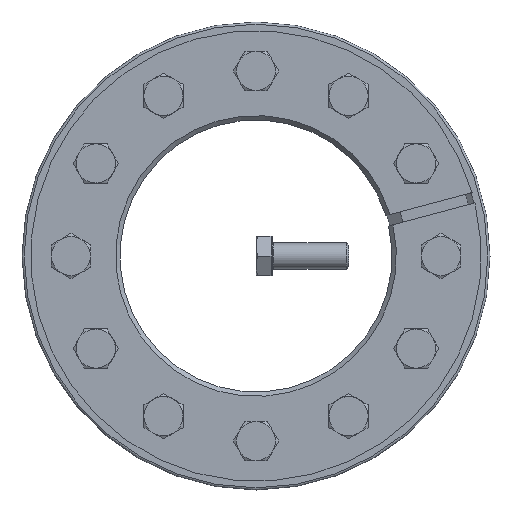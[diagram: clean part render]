
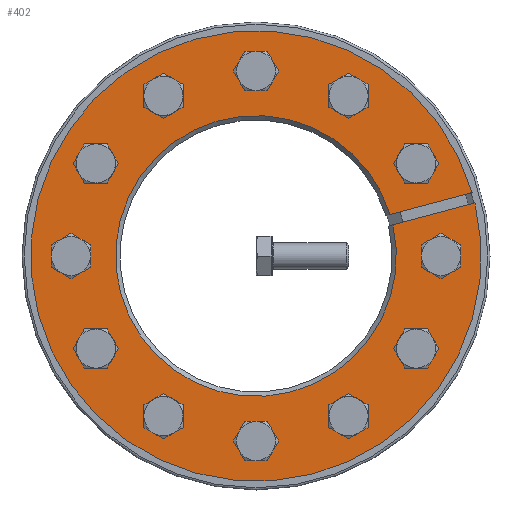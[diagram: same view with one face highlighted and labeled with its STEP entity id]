
A CAD part, front view. The second image highlights one B-rep face of the part: STEP entity #402.
In plain terms, the highlighted planar face has unit normal (0, -1, 0).
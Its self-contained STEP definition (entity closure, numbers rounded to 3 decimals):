
#402 = ADVANCED_FACE( '', ( #654, #655, #656, #657, #658, #659, #660, #661, #662, #663, #664, #665, #666 ), #667, .F. );
#654 = FACE_BOUND( '', #820, .T. );
#655 = FACE_BOUND( '', #821, .T. );
#656 = FACE_BOUND( '', #822, .T. );
#657 = FACE_BOUND( '', #823, .T. );
#658 = FACE_BOUND( '', #824, .T. );
#659 = FACE_BOUND( '', #825, .T. );
#660 = FACE_OUTER_BOUND( '', #826, .T. );
#661 = FACE_BOUND( '', #827, .T. );
#662 = FACE_BOUND( '', #828, .T. );
#663 = FACE_BOUND( '', #829, .T. );
#664 = FACE_BOUND( '', #830, .T. );
#665 = FACE_BOUND( '', #831, .T. );
#666 = FACE_BOUND( '', #832, .T. );
#667 = PLANE( '', #833 );
#820 = EDGE_LOOP( '', ( #1093 ) );
#821 = EDGE_LOOP( '', ( #1094 ) );
#822 = EDGE_LOOP( '', ( #1095 ) );
#823 = EDGE_LOOP( '', ( #1096 ) );
#824 = EDGE_LOOP( '', ( #1097 ) );
#825 = EDGE_LOOP( '', ( #1098 ) );
#826 = EDGE_LOOP( '', ( #1099, #1100, #1101, #1102 ) );
#827 = EDGE_LOOP( '', ( #1103 ) );
#828 = EDGE_LOOP( '', ( #1104 ) );
#829 = EDGE_LOOP( '', ( #1105 ) );
#830 = EDGE_LOOP( '', ( #1106 ) );
#831 = EDGE_LOOP( '', ( #1107 ) );
#832 = EDGE_LOOP( '', ( #1108 ) );
#833 = AXIS2_PLACEMENT_3D( '', #1109, #1110, #1111 );
#1093 = ORIENTED_EDGE( '', *, *, #1400, .T. );
#1094 = ORIENTED_EDGE( '', *, *, #1401, .T. );
#1095 = ORIENTED_EDGE( '', *, *, #1402, .T. );
#1096 = ORIENTED_EDGE( '', *, *, #1403, .T. );
#1097 = ORIENTED_EDGE( '', *, *, #1404, .T. );
#1098 = ORIENTED_EDGE( '', *, *, #1399, .T. );
#1099 = ORIENTED_EDGE( '', *, *, #1382, .T. );
#1100 = ORIENTED_EDGE( '', *, *, #1385, .T. );
#1101 = ORIENTED_EDGE( '', *, *, #1393, .T. );
#1102 = ORIENTED_EDGE( '', *, *, #1377, .F. );
#1103 = ORIENTED_EDGE( '', *, *, #1405, .T. );
#1104 = ORIENTED_EDGE( '', *, *, #1406, .T. );
#1105 = ORIENTED_EDGE( '', *, *, #1407, .T. );
#1106 = ORIENTED_EDGE( '', *, *, #1408, .T. );
#1107 = ORIENTED_EDGE( '', *, *, #1409, .T. );
#1108 = ORIENTED_EDGE( '', *, *, #1410, .T. );
#1109 = CARTESIAN_POINT( '', ( 0., 0., 107.5 ) );
#1110 = DIRECTION( '', ( 0., 1., 0. ) );
#1111 = DIRECTION( '', ( 0., 0., 1. ) );
#1377 = EDGE_CURVE( '', #1530, #1532, #1533, .T. );
#1382 = EDGE_CURVE( '', #1530, #1538, #1541, .T. );
#1385 = EDGE_CURVE( '', #1538, #1544, #1546, .T. );
#1393 = EDGE_CURVE( '', #1544, #1532, #1558, .T. );
#1399 = EDGE_CURVE( '', #1565, #1565, #1566, .T. );
#1400 = EDGE_CURVE( '', #1567, #1567, #1568, .T. );
#1401 = EDGE_CURVE( '', #1569, #1569, #1570, .T. );
#1402 = EDGE_CURVE( '', #1571, #1571, #1572, .T. );
#1403 = EDGE_CURVE( '', #1573, #1573, #1574, .T. );
#1404 = EDGE_CURVE( '', #1575, #1575, #1576, .T. );
#1405 = EDGE_CURVE( '', #1577, #1577, #1578, .T. );
#1406 = EDGE_CURVE( '', #1579, #1579, #1580, .T. );
#1407 = EDGE_CURVE( '', #1581, #1581, #1582, .T. );
#1408 = EDGE_CURVE( '', #1583, #1583, #1584, .T. );
#1409 = EDGE_CURVE( '', #1585, #1585, #1586, .T. );
#1410 = EDGE_CURVE( '', #1587, #1587, #1588, .T. );
#1530 = VERTEX_POINT( '', #1651 );
#1532 = VERTEX_POINT( '', #1656 );
#1533 = LINE( '', #1657, #1658 );
#1538 = VERTEX_POINT( '', #1668 );
#1541 = CIRCLE( '', #1674, 103.5 );
#1544 = VERTEX_POINT( '', #1677 );
#1546 = LINE( '', #1682, #1683 );
#1558 = CIRCLE( '', #1703, 64.5 );
#1565 = VERTEX_POINT( '', #1712 );
#1566 = CIRCLE( '', #1713, 6. );
#1567 = VERTEX_POINT( '', #1714 );
#1568 = CIRCLE( '', #1715, 6. );
#1569 = VERTEX_POINT( '', #1716 );
#1570 = CIRCLE( '', #1717, 6. );
#1571 = VERTEX_POINT( '', #1718 );
#1572 = CIRCLE( '', #1719, 6. );
#1573 = VERTEX_POINT( '', #1720 );
#1574 = CIRCLE( '', #1721, 6. );
#1575 = VERTEX_POINT( '', #1722 );
#1576 = CIRCLE( '', #1723, 6. );
#1577 = VERTEX_POINT( '', #1724 );
#1578 = CIRCLE( '', #1725, 6. );
#1579 = VERTEX_POINT( '', #1726 );
#1580 = CIRCLE( '', #1727, 6. );
#1581 = VERTEX_POINT( '', #1728 );
#1582 = CIRCLE( '', #1729, 6. );
#1583 = VERTEX_POINT( '', #1730 );
#1584 = CIRCLE( '', #1731, 6. );
#1585 = VERTEX_POINT( '', #1732 );
#1586 = CIRCLE( '', #1733, 6. );
#1587 = VERTEX_POINT( '', #1734 );
#1588 = CIRCLE( '', #1735, 6. );
#1651 = CARTESIAN_POINT( '', ( 99.297, 0., 29.195 ) );
#1656 = CARTESIAN_POINT( '', ( 61.608, 0., 19.096 ) );
#1657 = CARTESIAN_POINT( '', ( 99.326, 0., 29.203 ) );
#1658 = VECTOR( '', #1790, 1000. );
#1668 = CARTESIAN_POINT( '', ( 100.591, 0., 24.365 ) );
#1674 = AXIS2_PLACEMENT_3D( '', #1793, #1794, #1795 );
#1677 = CARTESIAN_POINT( '', ( 62.902, 0., 14.266 ) );
#1682 = CARTESIAN_POINT( '', ( 100.62, 0., 24.373 ) );
#1683 = VECTOR( '', #1799, 1000. );
#1703 = AXIS2_PLACEMENT_3D( '', #1808, #1809, #1810 );
#1712 = CARTESIAN_POINT( '', ( 85., 0., -6. ) );
#1713 = AXIS2_PLACEMENT_3D( '', #1822, #1823, #1824 );
#1714 = CARTESIAN_POINT( '', ( 37.304, 0., -76.612 ) );
#1715 = AXIS2_PLACEMENT_3D( '', #1825, #1826, #1827 );
#1716 = CARTESIAN_POINT( '', ( -47.696, 0., -70.612 ) );
#1717 = AXIS2_PLACEMENT_3D( '', #1828, #1829, #1830 );
#1718 = CARTESIAN_POINT( '', ( -85., 0., 6. ) );
#1719 = AXIS2_PLACEMENT_3D( '', #1831, #1832, #1833 );
#1720 = CARTESIAN_POINT( '', ( -37.304, 0., 76.612 ) );
#1721 = AXIS2_PLACEMENT_3D( '', #1834, #1835, #1836 );
#1722 = CARTESIAN_POINT( '', ( 47.696, 0., 70.612 ) );
#1723 = AXIS2_PLACEMENT_3D( '', #1837, #1838, #1839 );
#1724 = CARTESIAN_POINT( '', ( 76.612, 0., 37.304 ) );
#1725 = AXIS2_PLACEMENT_3D( '', #1840, #1841, #1842 );
#1726 = CARTESIAN_POINT( '', ( 6., 0., 85. ) );
#1727 = AXIS2_PLACEMENT_3D( '', #1843, #1844, #1845 );
#1728 = CARTESIAN_POINT( '', ( -70.612, 0., 47.696 ) );
#1729 = AXIS2_PLACEMENT_3D( '', #1846, #1847, #1848 );
#1730 = CARTESIAN_POINT( '', ( -76.612, 0., -37.304 ) );
#1731 = AXIS2_PLACEMENT_3D( '', #1849, #1850, #1851 );
#1732 = CARTESIAN_POINT( '', ( -6., 0., -85. ) );
#1733 = AXIS2_PLACEMENT_3D( '', #1852, #1853, #1854 );
#1734 = CARTESIAN_POINT( '', ( 70.612, 0., -47.696 ) );
#1735 = AXIS2_PLACEMENT_3D( '', #1855, #1856, #1857 );
#1790 = DIRECTION( '', ( -0.966, 0., -0.259 ) );
#1793 = CARTESIAN_POINT( '', ( 0., 0., 0. ) );
#1794 = DIRECTION( '', ( 0., -1., 0. ) );
#1795 = DIRECTION( '', ( 0., 0., -1. ) );
#1799 = DIRECTION( '', ( -0.966, 0., -0.259 ) );
#1808 = CARTESIAN_POINT( '', ( 0., 0., 0. ) );
#1809 = DIRECTION( '', ( 0., 1., 0. ) );
#1810 = DIRECTION( '', ( 0., 0., 1. ) );
#1822 = CARTESIAN_POINT( '', ( 85., 0., 0. ) );
#1823 = DIRECTION( '', ( 0., 1., 0. ) );
#1824 = DIRECTION( '', ( 0., 0., -1. ) );
#1825 = CARTESIAN_POINT( '', ( 42.5, 0., -73.612 ) );
#1826 = DIRECTION( '', ( 0., 1., 0. ) );
#1827 = DIRECTION( '', ( -0.866, 0., -0.5 ) );
#1828 = CARTESIAN_POINT( '', ( -42.5, 0., -73.612 ) );
#1829 = DIRECTION( '', ( 0., 1., 0. ) );
#1830 = DIRECTION( '', ( -0.866, 0., 0.5 ) );
#1831 = CARTESIAN_POINT( '', ( -85., 0., 0. ) );
#1832 = DIRECTION( '', ( 0., 1., 0. ) );
#1833 = DIRECTION( '', ( 0., 0., 1. ) );
#1834 = CARTESIAN_POINT( '', ( -42.5, 0., 73.612 ) );
#1835 = DIRECTION( '', ( 0., 1., 0. ) );
#1836 = DIRECTION( '', ( 0.866, 0., 0.5 ) );
#1837 = CARTESIAN_POINT( '', ( 42.5, 0., 73.612 ) );
#1838 = DIRECTION( '', ( 0., 1., 0. ) );
#1839 = DIRECTION( '', ( 0.866, 0., -0.5 ) );
#1840 = CARTESIAN_POINT( '', ( 73.612, 0., 42.5 ) );
#1841 = DIRECTION( '', ( 0., 1., 0. ) );
#1842 = DIRECTION( '', ( 0.5, 0., -0.866 ) );
#1843 = CARTESIAN_POINT( '', ( 0., 0., 85. ) );
#1844 = DIRECTION( '', ( 0., 1., 0. ) );
#1845 = DIRECTION( '', ( 1., 0., 0. ) );
#1846 = CARTESIAN_POINT( '', ( -73.612, 0., 42.5 ) );
#1847 = DIRECTION( '', ( 0., 1., 0. ) );
#1848 = DIRECTION( '', ( 0.5, 0., 0.866 ) );
#1849 = CARTESIAN_POINT( '', ( -73.612, 0., -42.5 ) );
#1850 = DIRECTION( '', ( 0., 1., 0. ) );
#1851 = DIRECTION( '', ( -0.5, 0., 0.866 ) );
#1852 = CARTESIAN_POINT( '', ( 0., 0., -85. ) );
#1853 = DIRECTION( '', ( 0., 1., 0. ) );
#1854 = DIRECTION( '', ( -1., 0., 0. ) );
#1855 = CARTESIAN_POINT( '', ( 73.612, 0., -42.5 ) );
#1856 = DIRECTION( '', ( 0., 1., 0. ) );
#1857 = DIRECTION( '', ( -0.5, 0., -0.866 ) );
